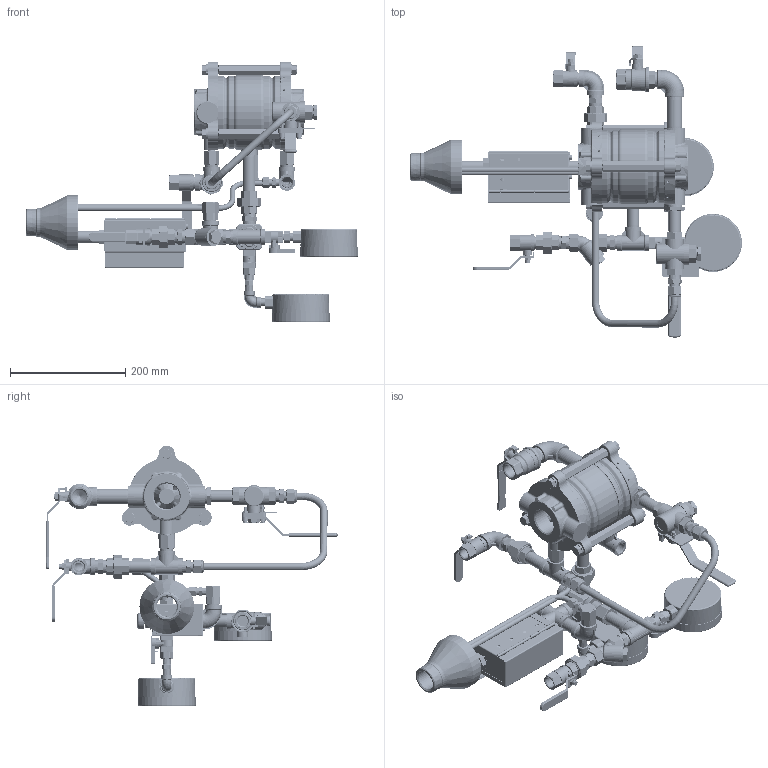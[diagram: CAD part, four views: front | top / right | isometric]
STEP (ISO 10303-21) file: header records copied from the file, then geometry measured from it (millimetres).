
FILE_DESCRIPTION(/* description */ (''),/* implementation_level */ '2;1');
FILE_NAME(/* name */ 'Z:\STANDARD SYSTEM\700DX-04A01\STP\711DX-04A01 FM Trim 1_5in.stp',/* time_stamp */ '2022-10-26T14:54:18+03:00',/* author */ ('alex'),/* organization */ (''),/* preprocessor_version */ 'ST-DEVELOPER v16.13',/* originating_system */ 'Autodesk Inventor 2018',/* authorisation */ '');
FILE_SCHEMA (('AUTOMOTIVE_DESIGN { 1 0 10303 214 3 1 1 }'));
Length unit declared in the file: inch
Products named in the file (1): 711DX-04A01 FM Trim 1_5in STEP_Shrinkwrap_1
Bounding box: 577.1 x 506.26 x 452.95 mm (x, y, z)
Volume: 2811955.7 mm3; surface area: 1107279.9 mm2
Topology: 133 solids, 134 shells, 4232 faces, 9947 edges, 6106 vertices
Faces by surface type: plane 1946, cone 953, cylinder 943, bspline 199, torus 177, sphere 14
Full cylindrical faces by diameter (mm): 0.375 x1, 3 x1, 3.242 x4, 4 x12, 4.134 x5, 4.2 x4, 4.5 x2, 4.978 x1, 5 x15, 5.2 x4, 5.25 x2, 5.5 x4, 5.8 x5, 6 x2, 6.35 x2, 6.4 x4, 6.5 x6, 6.647 x1, 6.88 x2, 7 x9, 7.036 x5, 7.3 x2, 7.5 x2, 8 x5, 8.1 x2, 8.376 x1, 8.5 x9, 9 x3, 9.144 x6, 9.5 x2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
Entity records: 125957 total; most frequent: CARTESIAN_POINT 32287, DIRECTION 18320, ORIENTED_EDGE 17674, EDGE_CURVE 8817, AXIS2_PLACEMENT_3D 7293, VERTEX_POINT 5877, EDGE_LOOP 5574, STYLED_ITEM 4363
